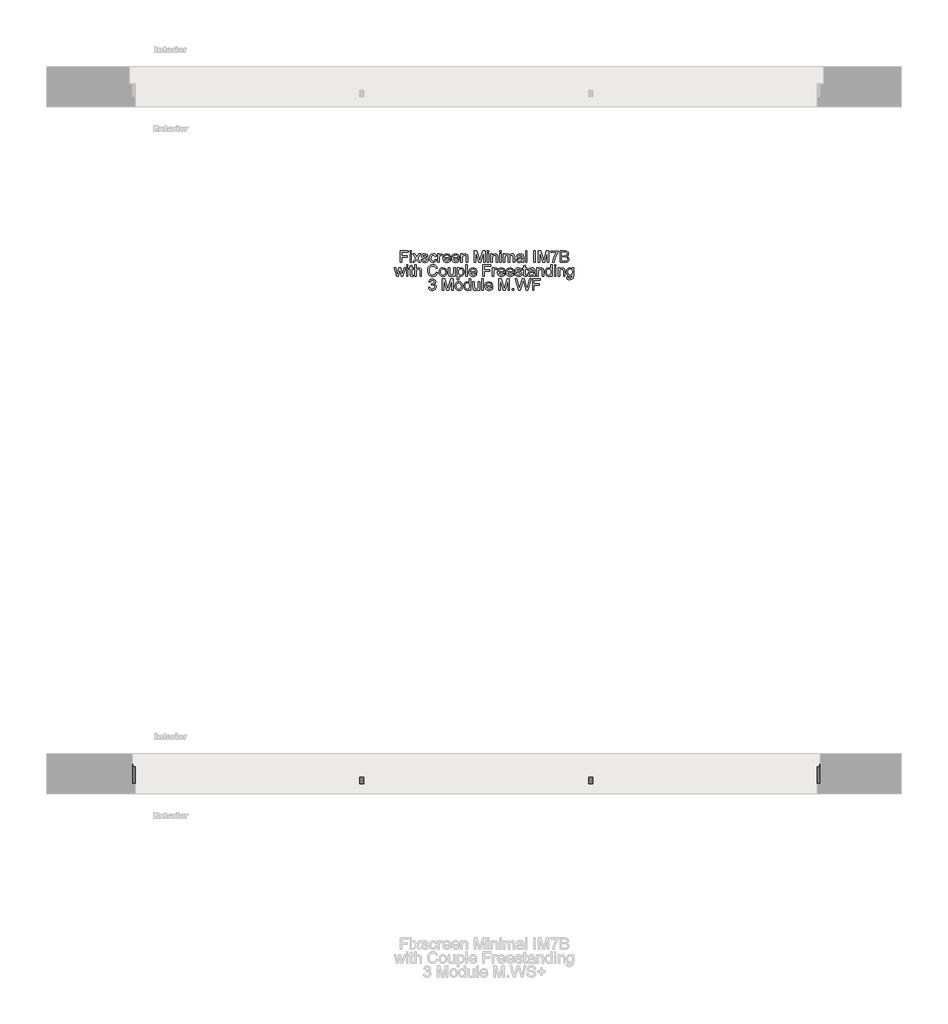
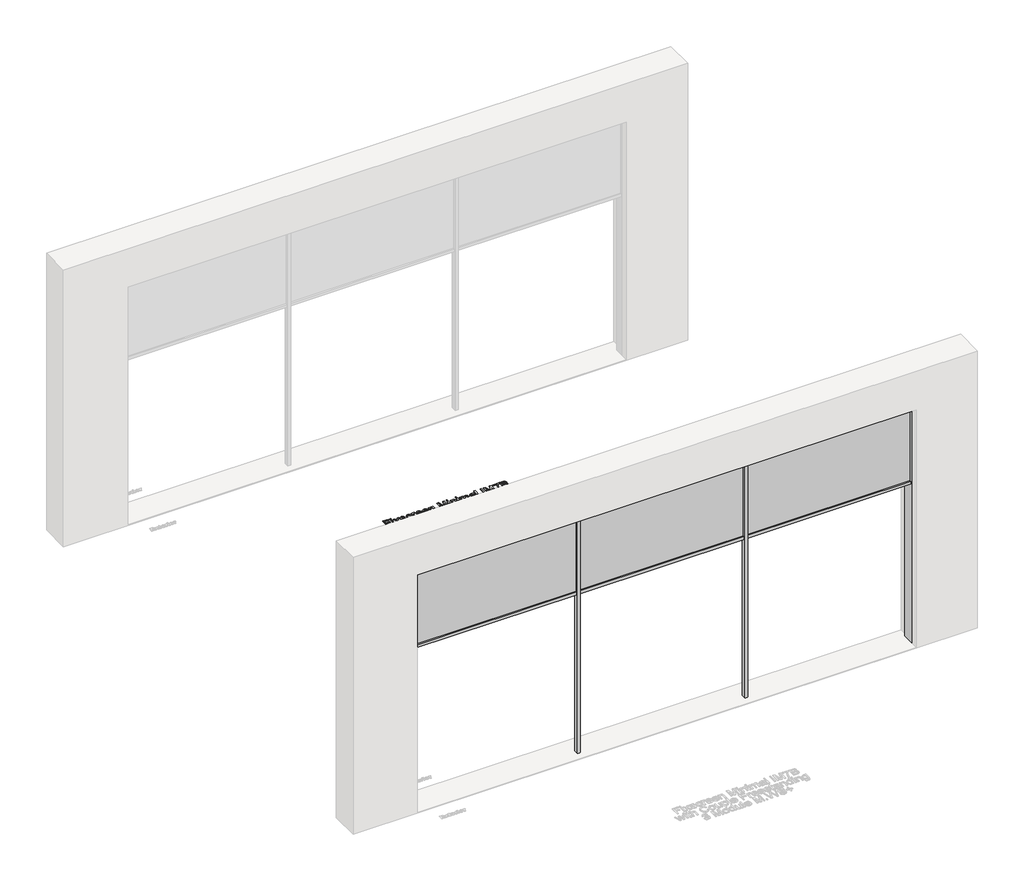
# One storey, part 13 of 14: 2 proxies.
"""IFC4 building model written with IfcOpenShell, lengths in millimetres."""

from ifc_helpers import new_model, si_unit, origin, origin_with_axes, place, context, project, spatial, polyline, outline, extrude, transform, mapped, element, save
from components import generic_models_a90540da

model = new_model("IFC4")

# Units and contexts
model_context = context("Model", 3, world=origin())
ifc_project = project(units=[si_unit("LENGTHUNIT", "METRE", prefix="MILLI")], contexts=[model_context])

# Site, building, storey
site = spatial("IfcSite", under=ifc_project)
building = spatial("IfcBuilding", under=site)
storey = spatial("IfcBuildingStorey", under=building, Name="Fixscreen Mini CF Overview Top", Elevation=0.0)

# Proxies
placement = place(None, origin())
generic_models_shape = generic_models_a90540da(model_context)
element("IfcBuildingElementProxy", 1, Name="Renson_Fixscreen_Minimal_IM7B_With_CF : Recessed - Front of the window - Medium-CF - Access downwards - Fabric away from the window", ObjectType="Renson_Fixscreen_Minimal_IM7B_With_CF : Recessed - Front of the window - Medium-CF - Access downwards - Fabric away from the window", at=placement, inside=storey, context=model_context, shape_type="MappedRepresentation", body=[
    mapped(generic_models_shape, transform((2057.1404643, 4332.1214664, -790.0), x_axis=(-1.0, 0.0, 0.0), y_axis=(0.0, -1.0, 0.0), z_axis=(0.0, 0.0, 1.0))),
])
element("IfcBuildingElementProxy", 2, Name="100mm Arial", ObjectType="100mm Arial", at=placement, inside=storey, context=model_context, shape_type="SweptSolid", body=[
    extrude(outline(polyline([(294.8320577, 8794.9284849), (294.8320577, 8895.3847951), (362.3261411, 8895.3847951), (362.3261411, 8882.8277563), (307.3890965, 8882.8277563), (307.3890965, 8853.0047892), (354.4779918, 8853.0047892), (354.4779918, 8840.4477504), (307.3890965, 8840.4477504), (307.3890965, 8794.9284849), (294.8320577, 8794.9284849)])), origin_with_axes(), (0.0, 0.0, 1.0), 5.0),
    extrude(outline(polyline([(378.0224395, 8794.9284849), (378.0224395, 8868.7010877), (390.5794783, 8868.7010877), (390.5794783, 8794.9284849), (378.0224395, 8794.9284849)])), origin_with_axes(), (0.0, 0.0, 1.0), 5.0),
    extrude(outline(polyline([(378.0224395, 8882.8277563), (378.0224395, 8895.3847951), (390.5794783, 8895.3847951), (390.5794783, 8882.8277563), (378.0224395, 8882.8277563)])), origin_with_axes(), (0.0, 0.0, 1.0), 5.0),
    extrude(outline(polyline([(401.5668872, 8794.9284849), (428.3977474, 8832.01099), (403.1365171, 8868.7010877), (418.2442043, 8868.7010877), (430.4333611, 8851.0427519), (436.1232693, 8842.7040933), (441.052888, 8849.522173), (454.934302, 8868.7010877), (470.0419893, 8868.7010877), (443.5054347, 8832.01099), (469.0609706, 8794.9284849), (453.9532833, 8794.9284849), (438.5758159, 8817.2221338), (435.7553873, 8821.2933612), (416.6745745, 8794.9284849), (401.5668872, 8794.9284849)])), origin_with_axes(), (0.0, 0.0, 1.0), 5.0),
    extrude(outline(polyline([(475.33949, 8816.9033027), (487.8965288, 8818.4729326), (493.7090643, 8809.1532554), (507.0263925, 8805.9158938), (519.8286859, 8808.8834753), (523.9980152, 8815.8487077), (519.8041605, 8821.489565), (506.8792397, 8825.070283), (487.9701052, 8831.2139124), (479.7172857, 8838.3876113), (476.9091198, 8848.5166289), (479.1654627, 8857.8730943), (485.3213548, 8865.0222677), (493.3043941, 8868.7378759), (504.107862, 8870.2707175), (519.3872275, 8867.8059081), (529.0993122, 8861.1349813), (533.4157943, 8849.8655295), (520.8587555, 8848.2958997), (516.1376033, 8855.2243439), (505.0888807, 8857.7136787), (493.0714022, 8855.3347085), (489.4661586, 8849.7919531), (490.9622121, 8846.1376586), (495.6465761, 8843.3662809), (506.4623068, 8840.6930051), (524.8931947, 8834.7823677), (533.4525825, 8828.0869154), (536.555054, 8817.1730829), (532.9130222, 8805.1556044), (522.4038599, 8796.4368011), (506.8547142, 8793.3588551), (494.1934422, 8794.8426458), (484.9534728, 8799.2940179), (478.785318, 8806.6639205), (475.33949, 8816.9033027)])), origin_with_axes(), (0.0, 0.0, 1.0), 5.0),
    extrude(outline(polyline([(597.770618, 8821.6121923), (610.3276568, 8820.0425624), (606.8266464, 8808.8742782), (600.2476901, 8800.4344521), (591.2100557, 8795.1277543), (580.3330114, 8793.3588551), (566.9758293, 8795.8267301), (556.5310463, 8803.2303553), (549.7896088, 8815.2447681), (547.5424629, 8831.5450062), (551.3806984, 8852.4039153), (563.0793458, 8865.8070826), (580.1613332, 8870.2707175), (590.771663, 8868.7378759), (599.2544087, 8864.1393509), (605.33979, 8856.7203974), (608.7580269, 8846.7262698), (596.2009881, 8845.15664), (590.3761899, 8854.5621563), (580.259435, 8857.7136787), (572.1445713, 8856.162443), (565.7035707, 8851.5087358), (561.5005189, 8843.501171), (560.0995017, 8831.8883627), (561.4698621, 8820.1192045), (565.5809434, 8812.0840486), (571.905448, 8807.4579325), (579.9160785, 8805.9158938), (591.749616, 8809.766392), (597.770618, 8821.6121923)])), origin_with_axes(), (0.0, 0.0, 1.0), 5.0),
    extrude(outline(polyline([(621.3150657, 8794.9284849), (621.3150657, 8868.7010877), (632.3024746, 8868.7010877), (632.3024746, 8857.7872551), (640.1015729, 8867.8426963), (647.9497221, 8870.2707175), (660.5558118, 8866.3956938), (656.3619571, 8855.1385048), (647.5327892, 8857.7136787), (640.4326667, 8855.2366066), (635.9077182, 8848.3694761), (633.8721044, 8833.7032472), (633.8721044, 8794.9284849), (621.3150657, 8794.9284849)])), origin_with_axes(), (0.0, 0.0, 1.0), 5.0),
    extrude(outline(polyline([(720.0545932, 8816.9033027), (732.3663773, 8815.3336729), (727.9303336, 8806.0569153), (720.8516708, 8799.1223396), (711.2898046, 8794.7997262), (699.4041505, 8793.3588551), (684.6704766, 8795.8451242), (673.3335798, 8803.3039317), (666.1046986, 8815.2508995), (663.6950715, 8831.2016496), (666.1292241, 8847.6888944), (673.4316817, 8860.0190726), (684.6152943, 8867.7078063), (698.692912, 8870.2707175), (712.332137, 8867.7139376), (723.2306411, 8860.043598), (730.3767488, 8847.7379453), (732.7587848, 8831.275226), (732.6852084, 8827.8907117), (676.2521103, 8827.8907117), (678.4256797, 8818.4913267), (683.4748601, 8811.5812765), (690.7619893, 8807.3322395), (699.6494052, 8805.9158938), (711.9611893, 8808.5401187), (720.0545932, 8816.9033027)]), holes=[polyline([(676.2521103, 8840.4477504), (720.201746, 8840.4477504), (715.1740254, 8851.8275668), (707.8531737, 8856.2421508), (698.6438611, 8857.7136787), (683.1805545, 8853.0170519), (678.3153151, 8847.5264132), (676.2521103, 8840.4477504)])]), origin_with_axes(), (0.0, 0.0, 1.0), 5.0),
    extrude(outline(polyline([(796.9664556, 8816.9033027), (809.2782397, 8815.3336729), (804.842196, 8806.0569153), (797.7635333, 8799.1223396), (788.2016671, 8794.7997262), (776.316013, 8793.3588551), (761.5823391, 8795.8451242), (750.2454423, 8803.3039317), (743.016561, 8815.2508995), (740.606934, 8831.2016496), (743.0410865, 8847.6888944), (750.3435441, 8860.0190726), (761.5271568, 8867.7078063), (775.6047745, 8870.2707175), (789.2439994, 8867.7139376), (800.1425035, 8860.043598), (807.2886113, 8847.7379453), (809.6706472, 8831.275226), (809.5970708, 8827.8907117), (753.1639728, 8827.8907117), (755.3375422, 8818.4913267), (760.3867226, 8811.5812765), (767.6738518, 8807.3322395), (776.5612676, 8805.9158938), (788.8730517, 8808.5401187), (796.9664556, 8816.9033027)]), holes=[polyline([(753.1639728, 8840.4477504), (797.1136084, 8840.4477504), (792.0858878, 8851.8275668), (784.7650361, 8856.2421508), (775.5557235, 8857.7136787), (760.092417, 8853.0170519), (755.2271776, 8847.5264132), (753.1639728, 8840.4477504)])]), origin_with_axes(), (0.0, 0.0, 1.0), 5.0),
    extrude(outline(polyline([(822.227686, 8794.9284849), (822.227686, 8868.7010877), (834.7847247, 8868.7010877), (834.7847247, 8858.4003918), (844.3864448, 8867.3031361), (857.4953066, 8870.2707175), (869.3533696, 8867.8794845), (877.4467735, 8861.6009652), (881.2114325, 8852.3671271), (881.8736201, 8840.2270212), (881.8736201, 8794.9284849), (869.3165814, 8794.9284849), (869.3165814, 8838.5347641), (867.8695788, 8849.6448003), (862.7560191, 8855.5186495), (854.1353177, 8857.7136787), (840.5114211, 8852.78406), (836.2163988, 8845.6410179), (834.7847247, 8834.0711292), (834.7847247, 8794.9284849), (822.227686, 8794.9284849)])), origin_with_axes(), (0.0, 0.0, 1.0), 5.0),
    extrude(outline(polyline([(939.9499244, 8794.9284849), (939.9499244, 8895.3847951), (961.5568603, 8895.3847951), (982.1092011, 8824.5797737), (986.2540049, 8809.7909175), (990.7421652, 8825.806047), (1010.9511495, 8895.3847951), (1032.5580854, 8895.3847951), (1032.5580854, 8794.9284849), (1020.0010466, 8794.9284849), (1020.0010466, 8882.8277563), (994.7643417, 8794.9284849), (977.7436681, 8794.9284849), (952.5069632, 8882.8277563), (952.5069632, 8794.9284849), (939.9499244, 8794.9284849)])), origin_with_axes(), (0.0, 0.0, 1.0), 5.0),
    extrude(outline(polyline([(1052.9632734, 8882.8277563), (1052.9632734, 8895.3847951), (1065.5203121, 8895.3847951), (1065.5203121, 8882.8277563), (1052.9632734, 8882.8277563)])), origin_with_axes(), (0.0, 0.0, 1.0), 5.0),
    extrude(outline(polyline([(1052.9632734, 8794.9284849), (1052.9632734, 8868.7010877), (1065.5203121, 8868.7010877), (1065.5203121, 8794.9284849), (1052.9632734, 8794.9284849)])), origin_with_axes(), (0.0, 0.0, 1.0), 5.0),
    extrude(outline(polyline([(1084.3558703, 8794.9284849), (1084.3558703, 8868.7010877), (1096.912909, 8868.7010877), (1096.912909, 8858.4003918), (1106.5146291, 8867.3031361), (1119.6234909, 8870.2707175), (1131.4815539, 8867.8794845), (1139.5749578, 8861.6009652), (1143.3396168, 8852.3671271), (1144.0018044, 8840.2270212), (1144.0018044, 8794.9284849), (1131.4447657, 8794.9284849), (1131.4447657, 8838.5347641), (1129.9977631, 8849.6448003), (1124.8842034, 8855.5186495), (1116.263502, 8857.7136787), (1102.6396054, 8852.78406), (1098.3445831, 8845.6410179), (1096.912909, 8834.0711292), (1096.912909, 8794.9284849), (1084.3558703, 8794.9284849)])), origin_with_axes(), (0.0, 0.0, 1.0), 5.0),
    extrude(outline(polyline([(1161.2677327, 8794.9284849), (1161.2677327, 8868.7010877), (1173.8247715, 8868.7010877), (1173.8247715, 8794.9284849), (1161.2677327, 8794.9284849)])), origin_with_axes(), (0.0, 0.0, 1.0), 5.0),
    extrude(outline(polyline([(1161.2677327, 8882.8277563), (1161.2677327, 8895.3847951), (1173.8247715, 8895.3847951), (1173.8247715, 8882.8277563), (1161.2677327, 8882.8277563)])), origin_with_axes(), (0.0, 0.0, 1.0), 5.0),
    extrude(outline(polyline([(1192.6603297, 8794.9284849), (1192.6603297, 8868.7010877), (1205.2173684, 8868.7010877), (1205.2173684, 8856.5609818), (1213.8503326, 8866.5060584), (1226.1375912, 8870.2707175), (1238.7191555, 8866.432482), (1245.635337, 8855.678065), (1255.4332608, 8866.6225544), (1267.8063585, 8870.2707175), (1277.2455974, 8868.7532043), (1284.2261583, 8864.2006646), (1288.5395746, 8856.4904711), (1289.9773801, 8845.4999965), (1289.9773801, 8794.9284849), (1277.4203413, 8794.9284849), (1277.4203413, 8840.1043939), (1276.2553817, 8850.5890308), (1272.0370015, 8855.7516414), (1264.8633026, 8857.7136787), (1252.5147303, 8852.6859581), (1248.8267133, 8846.14379), (1247.5973743, 8836.5727268), (1247.5973743, 8794.9284849), (1235.0403355, 8794.9284849), (1235.0403355, 8841.5023455), (1232.1340677, 8853.6669768), (1222.6059241, 8857.7136787), (1213.3107723, 8855.0158774), (1207.1303548, 8847.1186773), (1205.2173684, 8832.1336173), (1205.2173684, 8794.9284849), (1192.6603297, 8794.9284849)])), origin_with_axes(), (0.0, 0.0, 1.0), 5.0),
    extrude(outline(polyline([(1355.9018336, 8804.346264), (1343.7249396, 8795.8359272), (1330.2727213, 8793.3588551), (1319.7788874, 8794.8487771), (1312.0380371, 8799.3185434), (1307.2647682, 8806.1059662), (1305.6736786, 8814.548858), (1308.0771743, 8824.4816718), (1314.3924819, 8831.692159), (1323.1848615, 8835.8124373), (1334.0496431, 8837.7008982), (1355.8282572, 8842.0173803), (1355.9018336, 8844.8132834), (1352.4437429, 8854.0839097), (1338.5623289, 8857.7136787), (1325.8581374, 8855.2979203), (1319.8003472, 8846.7262698), (1307.2433084, 8848.2958997), (1312.6756992, 8860.5586328), (1323.6140572, 8867.7445945), (1340.1810097, 8870.2707175), (1355.3990616, 8868.0389001), (1363.9952375, 8862.434831), (1367.8457358, 8853.9122315), (1368.4588724, 8842.9248225), (1368.4588724, 8827.3021005), (1369.0965345, 8805.4866982), (1371.5981321, 8794.9284849), (1359.0410933, 8794.9284849), (1355.9018336, 8804.346264)]), holes=[polyline([(1355.9018336, 8829.4603415), (1335.6437984, 8825.6098433), (1324.8403305, 8823.5742296), (1319.9475, 8820.2632916), (1318.2307173, 8815.4317748), (1321.970851, 8808.6382206), (1332.9459971, 8805.9158938), (1345.6501887, 8808.9202635), (1353.8416945, 8816.1920642), (1355.8282572, 8825.9041489), (1355.9018336, 8829.4603415)])]), origin_with_axes(), (0.0, 0.0, 1.0), 5.0),
    extrude(outline(polyline([(1385.7248007, 8794.9284849), (1385.7248007, 8895.3847951), (1398.2818395, 8895.3847951), (1398.2818395, 8794.9284849), (1385.7248007, 8794.9284849)])), origin_with_axes(), (0.0, 0.0, 1.0), 5.0),
    extrude(outline(polyline([(1459.4974035, 8794.9284849), (1459.4974035, 8895.3847951), (1472.0544423, 8895.3847951), (1472.0544423, 8794.9284849), (1459.4974035, 8794.9284849)])), origin_with_axes(), (0.0, 0.0, 1.0), 5.0),
    extrude(outline(polyline([(1497.1685198, 8794.9284849), (1497.1685198, 8895.3847951), (1518.7754556, 8895.3847951), (1539.3277964, 8824.5797737), (1543.4726003, 8809.7909175), (1547.9607606, 8825.806047), (1568.1697449, 8895.3847951), (1589.7766807, 8895.3847951), (1589.7766807, 8794.9284849), (1577.2196419, 8794.9284849), (1577.2196419, 8882.8277563), (1551.9829371, 8794.9284849), (1534.9622634, 8794.9284849), (1509.7255586, 8882.8277563), (1509.7255586, 8794.9284849), (1497.1685198, 8794.9284849)])), origin_with_axes(), (0.0, 0.0, 1.0), 5.0),
    extrude(outline(polyline([(1607.042609, 8881.2581264), (1607.042609, 8893.8151652), (1672.9670626, 8893.8151652), (1672.9670626, 8883.6616221), (1654.2663945, 8856.646821), (1639.9557849, 8822.2253289), (1635.2959463, 8794.9284849), (1622.7389075, 8794.9284849), (1627.7298399, 8823.2553985), (1641.4273128, 8855.2733948), (1660.4100238, 8881.2581264), (1607.042609, 8881.2581264)])), origin_with_axes(), (0.0, 0.0, 1.0), 5.0),
    extrude(outline(polyline([(1688.663361, 8794.9284849), (1688.663361, 8895.3847951), (1726.9966649, 8895.3847951), (1745.7709094, 8892.4294764), (1756.8564202, 8883.3427911), (1760.8663339, 8870.4914467), (1757.4940823, 8858.7560111), (1747.303751, 8849.8655295), (1759.6768488, 8840.4968014), (1764.0055936, 8824.8740793), (1761.0502749, 8811.3728101), (1753.7294232, 8801.7588273), (1742.803328, 8796.6575303), (1726.7023593, 8794.9284849), (1688.663361, 8794.9284849)]), holes=[polyline([(1701.2203998, 8854.5744191), (1724.1517108, 8854.5744191), (1737.5426154, 8855.6535396), (1745.5992311, 8860.3011154), (1748.3092952, 8868.4803585), (1745.7831721, 8876.6718642), (1738.5481596, 8881.5156438), (1722.4104027, 8882.8277563), (1701.2203998, 8882.8277563), (1701.2203998, 8854.5744191)]), polyline([(1701.2203998, 8807.4855237), (1726.9721394, 8807.4855237), (1736.2918167, 8807.976033), (1744.1767541, 8810.7106225), (1749.4006784, 8816.2901661), (1751.4485549, 8824.751452), (1749.0450592, 8834.5125876), (1741.2582236, 8840.3373858), (1725.7458661, 8842.0173803), (1701.2203998, 8842.0173803), (1701.2203998, 8807.4855237)])]), origin_with_axes(), (0.0, 0.0, 1.0), 5.0),
    extrude(outline(polyline([(260.7661849, 8672.9536671), (238.3253832, 8746.7262698), (251.3729313, 8746.7262698), (264.1016484, 8703.6840764), (267.9030956, 8688.306609), (271.0178299, 8703.1199907), (281.1468475, 8746.7262698), (296.1073819, 8746.7262698), (306.1873486, 8703.242618), (308.9587263, 8689.8271879), (312.9318519, 8703.978382), (325.6850944, 8746.7262698), (338.7816934, 8746.7262698), (316.1692134, 8672.9536671), (300.9879497, 8672.9536671), (291.3494415, 8716.2165897), (288.5535383, 8729.7055962), (276.1191269, 8672.9536671), (260.7661849, 8672.9536671)])), origin_with_axes(), (0.0, 0.0, 1.0), 5.0),
    extrude(outline(polyline([(347.4146575, 8672.9536671), (347.4146575, 8746.7262698), (359.9716963, 8746.7262698), (359.9716963, 8672.9536671), (347.4146575, 8672.9536671)])), origin_with_axes(), (0.0, 0.0, 1.0), 5.0),
    extrude(outline(polyline([(347.4146575, 8760.8529384), (347.4146575, 8773.4099772), (359.9716963, 8773.4099772), (359.9716963, 8760.8529384), (347.4146575, 8760.8529384)])), origin_with_axes(), (0.0, 0.0, 1.0), 5.0),
    extrude(outline(polyline([(405.4909618, 8683.4260412), (407.0605917, 8672.5857851), (397.6673381, 8671.3840372), (387.145913, 8673.4687018), (381.8974632, 8678.9378808), (380.3768843, 8693.1871768), (380.3768843, 8734.1692311), (370.9591052, 8734.1692311), (370.9591052, 8746.7262698), (380.3768843, 8746.7262698), (380.3768843, 8764.6543857), (392.9339231, 8772.0365511), (392.9339231, 8746.7262698), (405.4909618, 8746.7262698), (405.4909618, 8734.1692311), (392.9339231, 8734.1692311), (392.9339231, 8693.5550588), (393.5961107, 8687.0803357), (395.742089, 8684.7872046), (400.0217828, 8683.941076), (405.4909618, 8683.4260412)])), origin_with_axes(), (0.0, 0.0, 1.0), 5.0),
    extrude(outline(polyline([(418.0480006, 8672.9536671), (418.0480006, 8773.4099772), (430.6050394, 8773.4099772), (430.6050394, 8736.4746249), (440.3968318, 8745.340581), (452.4572299, 8748.2958997), (466.559373, 8745.0708008), (475.1187608, 8736.1557938), (477.6939348, 8719.650155), (477.6939348, 8672.9536671), (465.136896, 8672.9536671), (465.136896, 8718.3503053), (461.139245, 8731.5940571), (449.8084795, 8735.7388609), (439.5200464, 8732.9429577), (432.6529158, 8725.3645886), (430.6050394, 8712.1453623), (430.6050394, 8672.9536671), (418.0480006, 8672.9536671)])), origin_with_axes(), (0.0, 0.0, 1.0), 5.0),
    extrude(outline(polyline([(606.4035821, 8708.6627461), (618.9606209, 8705.4253845), (613.1664795, 8690.7928781), (604.0736628, 8680.1028405), (592.1297607, 8673.563738), (577.7823629, 8671.3840372), (563.2173016, 8673.0333748), (551.6504785, 8677.9813877), (542.7845224, 8686.0563975), (536.3220621, 8697.0867259), (531.0613495, 8723.9421116), (532.5482059, 8738.5899464), (537.0087751, 8751.2389556), (544.2100652, 8761.4875349), (553.9190842, 8768.9340796), (565.4337906, 8773.4682252), (578.052143, 8774.9796071), (591.8201267, 8773.0237011), (603.2030088, 8767.1559833), (611.84517, 8757.7382042), (617.3909911, 8745.1321145), (604.8339523, 8742.1400076), (594.5332564, 8757.5787887), (577.5616337, 8762.4225683), (557.9167352, 8757.0514912), (546.8189617, 8742.6305169), (543.6183883, 8723.9666371), (547.4075728, 8702.3351757), (559.2043222, 8688.5150755), (576.5315641, 8683.941076), (587.0131353, 8685.4984431), (595.747267, 8690.1705444), (602.3415518, 8697.9083291), (606.4035821, 8708.6627461)])), origin_with_axes(), (0.0, 0.0, 1.0), 5.0),
    extrude(outline(polyline([(631.5176597, 8709.8399684), (634.2338551, 8727.6270629), (642.3824413, 8740.1289194), (652.4501452, 8746.2541546), (664.5044119, 8748.2958997), (677.6960471, 8745.8096305), (688.2328006, 8738.3508231), (695.1397851, 8726.5080885), (697.4421132, 8710.870038), (693.3708858, 8688.5273382), (681.5128228, 8675.8844603), (664.5044119, 8671.3840372), (651.1533612, 8673.8611093), (640.6288704, 8681.2923256), (633.7954624, 8693.3833805), (631.5176597, 8709.8399684)]), holes=[polyline([(644.0746984, 8709.8644939), (645.5278323, 8698.5000059), (649.887234, 8690.4035364), (656.4477962, 8685.5566911), (664.5044119, 8683.941076), (672.5242394, 8685.5658881), (679.0725389, 8690.4403246), (683.4319406, 8698.6440931), (684.8850744, 8710.2569014), (683.4227435, 8721.2902955), (679.0357507, 8729.2764005), (672.4782542, 8734.1232458), (664.5044119, 8735.7388609), (656.4477962, 8734.1293772), (649.887234, 8729.300926), (645.5278323, 8721.2228505), (644.0746984, 8709.8644939)])]), origin_with_axes(), (0.0, 0.0, 1.0), 5.0),
    extrude(outline(polyline([(758.6576772, 8672.9536671), (758.6576772, 8685.6333332), (748.8229652, 8674.9463612), (735.9961463, 8671.3840372), (724.1871343, 8673.8856348), (716.0446794, 8680.1641542), (712.3045458, 8689.410255), (711.5687818, 8701.084377), (711.5687818, 8746.7262698), (724.1258206, 8746.7262698), (724.1258206, 8706.9950143), (724.8861101, 8694.1927209), (729.852517, 8686.6756655), (739.2089824, 8683.941076), (749.6936193, 8686.7369791), (756.6220635, 8694.3521364), (758.6576772, 8708.343915), (758.6576772, 8746.7262698), (771.214716, 8746.7262698), (771.214716, 8672.9536671), (758.6576772, 8672.9536671)])), origin_with_axes(), (0.0, 0.0, 1.0), 5.0),
    extrude(outline(polyline([(788.4806443, 8644.7003298), (788.4806443, 8746.7262698), (801.0376831, 8746.7262698), (801.0376831, 8734.4144857), (809.7196981, 8744.8255462), (821.4428711, 8748.2958997), (837.3598987, 8743.4398573), (847.7586964, 8729.7546471), (851.2658381, 8710.4040542), (847.3049753, 8690.0601798), (835.8025316, 8676.2032913), (819.9222921, 8671.3840372), (808.9961969, 8674.609136), (801.0376831, 8682.7638536), (801.0376831, 8644.7003298), (788.4806443, 8644.7003298)]), holes=[polyline([(801.0376831, 8709.2513572), (802.3957808, 8697.9941682), (806.4700739, 8690.1214935), (812.4818788, 8685.4861804), (819.652512, 8683.941076), (826.9396412, 8685.5413627), (833.1047303, 8690.3422227), (837.3077821, 8698.5030716), (838.7087994, 8710.183325), (837.3415046, 8721.3792004), (833.2396204, 8729.3622397), (827.2370125, 8734.1447056), (820.1675468, 8735.7388609), (813.07049, 8734.043538), (806.8379558, 8728.9575695), (802.4877513, 8720.6403707), (801.0376831, 8709.2513572)])]), origin_with_axes(), (0.0, 0.0, 1.0), 5.0),
    extrude(outline(polyline([(865.3925067, 8672.9536671), (865.3925067, 8773.4099772), (877.9495455, 8773.4099772), (877.9495455, 8672.9536671), (865.3925067, 8672.9536671)])), origin_with_axes(), (0.0, 0.0, 1.0), 5.0),
    extrude(outline(polyline([(948.4357358, 8694.9284849), (960.7475199, 8693.3588551), (956.3114762, 8684.0820974), (949.2328134, 8677.1475218), (939.6709473, 8672.8249084), (927.7852931, 8671.3840372), (913.0516192, 8673.8703064), (901.7147224, 8681.3291138), (894.4858412, 8693.2760816), (892.0762141, 8709.2268318), (894.5103667, 8725.7140765), (901.8128243, 8738.0442547), (912.9964369, 8745.7329884), (927.0740546, 8748.2958997), (940.7132796, 8745.7391198), (951.6117837, 8738.0687802), (958.7578914, 8725.7631275), (961.1399274, 8709.3004082), (961.066351, 8705.9158938), (904.6332529, 8705.9158938), (906.8068224, 8696.5165088), (911.8560027, 8689.6064587), (919.1431319, 8685.3574217), (928.0305478, 8683.941076), (940.3423319, 8686.5653009), (948.4357358, 8694.9284849)]), holes=[polyline([(904.6332529, 8718.4729326), (948.5828886, 8718.4729326), (943.555168, 8729.852749), (936.2343163, 8734.2673329), (927.0250037, 8735.7388609), (911.5616971, 8731.0422341), (906.6964578, 8725.5515953), (904.6332529, 8718.4729326)])]), origin_with_axes(), (0.0, 0.0, 1.0), 5.0),
    extrude(outline(polyline([(1014.5073421, 8672.9536671), (1014.5073421, 8773.4099772), (1082.0014255, 8773.4099772), (1082.0014255, 8760.8529384), (1027.0643809, 8760.8529384), (1027.0643809, 8731.0299714), (1074.1532763, 8731.0299714), (1074.1532763, 8718.4729326), (1027.0643809, 8718.4729326), (1027.0643809, 8672.9536671), (1014.5073421, 8672.9536671)])), origin_with_axes(), (0.0, 0.0, 1.0), 5.0),
    extrude(outline(polyline([(1097.697724, 8672.9536671), (1097.697724, 8746.7262698), (1108.6851329, 8746.7262698), (1108.6851329, 8735.8124373), (1116.4842312, 8745.8678785), (1124.3323804, 8748.2958997), (1136.9384701, 8744.420876), (1132.7446154, 8733.1636869), (1123.9154475, 8735.7388609), (1116.815325, 8733.2617888), (1112.2903764, 8726.3946582), (1110.2547627, 8711.7284293), (1110.2547627, 8672.9536671), (1097.697724, 8672.9536671)])), origin_with_axes(), (0.0, 0.0, 1.0), 5.0),
    extrude(outline(polyline([(1196.4372515, 8694.9284849), (1208.7490356, 8693.3588551), (1204.3129919, 8684.0820974), (1197.2343291, 8677.1475218), (1187.6724629, 8672.8249084), (1175.7868088, 8671.3840372), (1161.0531349, 8673.8703064), (1149.7162381, 8681.3291138), (1142.4873569, 8693.2760816), (1140.0777298, 8709.2268318), (1142.5118823, 8725.7140765), (1149.8143399, 8738.0442547), (1160.9979526, 8745.7329884), (1175.0755703, 8748.2958997), (1188.7147953, 8745.7391198), (1199.6132994, 8738.0687802), (1206.7594071, 8725.7631275), (1209.141443, 8709.3004082), (1209.0678666, 8705.9158938), (1152.6347686, 8705.9158938), (1154.808338, 8696.5165088), (1159.8575184, 8689.6064587), (1167.1446476, 8685.3574217), (1176.0320635, 8683.941076), (1188.3438476, 8686.5653009), (1196.4372515, 8694.9284849)]), holes=[polyline([(1152.6347686, 8718.4729326), (1196.5844043, 8718.4729326), (1191.5566837, 8729.852749), (1184.235832, 8734.2673329), (1175.0265194, 8735.7388609), (1159.5632128, 8731.0422341), (1154.6979734, 8725.5515953), (1152.6347686, 8718.4729326)])]), origin_with_axes(), (0.0, 0.0, 1.0), 5.0),
    extrude(outline(polyline([(1273.3491139, 8694.9284849), (1285.660898, 8693.3588551), (1281.2248543, 8684.0820974), (1274.1461916, 8677.1475218), (1264.5843254, 8672.8249084), (1252.6986713, 8671.3840372), (1237.9649974, 8673.8703064), (1226.6281005, 8681.3291138), (1219.3992193, 8693.2760816), (1216.9895923, 8709.2268318), (1219.4237448, 8725.7140765), (1226.7262024, 8738.0442547), (1237.9098151, 8745.7329884), (1251.9874327, 8748.2958997), (1265.6266577, 8745.7391198), (1276.5251618, 8738.0687802), (1283.6712696, 8725.7631275), (1286.0533055, 8709.3004082), (1285.9797291, 8705.9158938), (1229.546631, 8705.9158938), (1231.7202005, 8696.5165088), (1236.7693809, 8689.6064587), (1244.0565101, 8685.3574217), (1252.9439259, 8683.941076), (1265.25571, 8686.5653009), (1273.3491139, 8694.9284849)]), holes=[polyline([(1229.546631, 8718.4729326), (1273.4962667, 8718.4729326), (1268.4685461, 8729.852749), (1261.1476944, 8734.2673329), (1251.9383818, 8735.7388609), (1236.4750753, 8731.0422341), (1231.6098359, 8725.5515953), (1229.546631, 8718.4729326)])]), origin_with_axes(), (0.0, 0.0, 1.0), 5.0),
    extrude(outline(polyline([(1293.9014547, 8694.9284849), (1306.4584935, 8696.4981147), (1312.271029, 8687.1784375), (1325.5883572, 8683.941076), (1338.3906507, 8686.9086574), (1342.55998, 8693.8738898), (1338.3661252, 8699.5147471), (1325.4412044, 8703.0954652), (1306.5320699, 8709.2390945), (1298.2792505, 8716.4127934), (1295.4710846, 8726.541811), (1297.7274275, 8735.8982764), (1303.8833195, 8743.0474499), (1311.8663588, 8746.763058), (1322.6698268, 8748.2958997), (1337.9491923, 8745.8310903), (1347.661277, 8739.1601635), (1351.977759, 8727.8907117), (1339.4207203, 8726.3210818), (1334.699568, 8733.2495261), (1323.6508454, 8735.7388609), (1311.6333669, 8733.3598907), (1308.0281233, 8727.8171353), (1309.5241768, 8724.1628408), (1314.2085409, 8721.3914631), (1325.0242715, 8718.7181873), (1343.4551595, 8712.8075499), (1352.0145472, 8706.1120976), (1355.1170187, 8695.198265), (1351.474987, 8683.1807865), (1340.9658246, 8674.4619832), (1325.416679, 8671.3840372), (1312.755407, 8672.8678279), (1303.5154375, 8677.3192001), (1297.3472827, 8684.6891027), (1293.9014547, 8694.9284849)])), origin_with_axes(), (0.0, 0.0, 1.0), 5.0),
    extrude(outline(polyline([(1395.9273947, 8683.4260412), (1397.4970246, 8672.5857851), (1388.103771, 8671.3840372), (1377.5823459, 8673.4687018), (1372.3338961, 8678.9378808), (1370.8133172, 8693.1871768), (1370.8133172, 8734.1692311), (1361.3955381, 8734.1692311), (1361.3955381, 8746.7262698), (1370.8133172, 8746.7262698), (1370.8133172, 8764.6543857), (1383.370356, 8772.0365511), (1383.370356, 8746.7262698), (1395.9273947, 8746.7262698), (1395.9273947, 8734.1692311), (1383.370356, 8734.1692311), (1383.370356, 8693.5550588), (1384.0325435, 8687.0803357), (1386.1785219, 8684.7872046), (1390.4582157, 8683.941076), (1395.9273947, 8683.4260412)])), origin_with_axes(), (0.0, 0.0, 1.0), 5.0),
    extrude(outline(polyline([(1455.5733289, 8682.3714461), (1443.3964348, 8673.8611093), (1429.9442165, 8671.3840372), (1419.4503826, 8672.8739593), (1411.7095323, 8677.3437255), (1406.9362634, 8684.1311483), (1405.3451738, 8692.5740401), (1407.7486695, 8702.506854), (1414.0639771, 8709.7173411), (1422.8563568, 8713.8376195), (1433.7211384, 8715.7260804), (1455.4997525, 8720.0425624), (1455.5733289, 8722.8384656), (1452.1152381, 8732.1090919), (1438.2338242, 8735.7388609), (1425.5296326, 8733.3231025), (1419.4718424, 8724.751452), (1406.9148036, 8726.3210818), (1412.3471944, 8738.583815), (1423.2855524, 8745.7697766), (1439.8525049, 8748.2958997), (1455.0705568, 8746.0640822), (1463.6667328, 8740.4600132), (1467.517231, 8731.9374136), (1468.1303676, 8720.9500047), (1468.1303676, 8705.3272826), (1468.7680298, 8683.5118803), (1471.2696273, 8672.9536671), (1458.7125886, 8672.9536671), (1455.5733289, 8682.3714461)]), holes=[polyline([(1455.5733289, 8707.4855237), (1435.3152937, 8703.6350255), (1424.5118257, 8701.5994117), (1419.6189952, 8698.2884738), (1417.9022126, 8693.4569569), (1421.6423462, 8686.6634027), (1432.6174924, 8683.941076), (1445.3216839, 8686.9454456), (1453.5131897, 8694.2172464), (1455.4997525, 8703.9293311), (1455.5733289, 8707.4855237)])]), origin_with_axes(), (0.0, 0.0, 1.0), 5.0),
    extrude(outline(polyline([(1485.3962959, 8672.9536671), (1485.3962959, 8746.7262698), (1497.9533347, 8746.7262698), (1497.9533347, 8736.425574), (1507.5550548, 8745.3283182), (1520.6639166, 8748.2958997), (1532.5219795, 8745.9046667), (1540.6153834, 8739.6261473), (1544.3800425, 8730.3923092), (1545.0422301, 8718.2522034), (1545.0422301, 8672.9536671), (1532.4851913, 8672.9536671), (1532.4851913, 8716.5599462), (1531.0381888, 8727.6699825), (1525.9246291, 8733.5438317), (1517.3039277, 8735.7388609), (1503.6800311, 8730.8092422), (1499.3850088, 8723.6662001), (1497.9533347, 8712.0963113), (1497.9533347, 8672.9536671), (1485.3962959, 8672.9536671)])), origin_with_axes(), (0.0, 0.0, 1.0), 5.0),
    extrude(outline(polyline([(1607.8274239, 8672.9536671), (1607.8274239, 8684.7994673), (1599.5194222, 8674.7378947), (1588.0353726, 8671.3840372), (1572.4862269, 8676.2400795), (1561.498818, 8689.7903997), (1557.5992689, 8709.766392), (1561.1922497, 8729.7546471), (1571.9589294, 8743.5134337), (1587.9863217, 8748.2958997), (1599.5623418, 8744.8745971), (1607.8274239, 8735.9841156), (1607.8274239, 8773.4099772), (1620.3844627, 8773.4099772), (1620.3844627, 8672.9536671), (1607.8274239, 8672.9536671)]), holes=[polyline([(1570.1563076, 8709.815443), (1571.5726533, 8698.4570864), (1575.8216904, 8690.3790109), (1581.9959765, 8685.5505597), (1589.1880695, 8683.941076), (1596.3770968, 8685.4769833), (1602.3950331, 8690.0847053), (1606.4693262, 8697.8500811), (1607.8274239, 8708.8589498), (1606.4448008, 8720.8948224), (1602.2969313, 8729.2396123), (1596.1257108, 8734.1140488), (1588.6730347, 8735.7388609), (1581.4073653, 8734.1784281), (1575.4538084, 8729.4971297), (1571.4806828, 8721.4558424), (1570.1563076, 8709.815443)])]), origin_with_axes(), (0.0, 0.0, 1.0), 5.0),
    extrude(outline(polyline([(1639.2200209, 8672.9536671), (1639.2200209, 8746.7262698), (1651.7770596, 8746.7262698), (1651.7770596, 8672.9536671), (1639.2200209, 8672.9536671)])), origin_with_axes(), (0.0, 0.0, 1.0), 5.0),
    extrude(outline(polyline([(1639.2200209, 8760.8529384), (1639.2200209, 8773.4099772), (1651.7770596, 8773.4099772), (1651.7770596, 8760.8529384), (1639.2200209, 8760.8529384)])), origin_with_axes(), (0.0, 0.0, 1.0), 5.0),
    extrude(outline(polyline([(1670.6126178, 8672.9536671), (1670.6126178, 8746.7262698), (1683.1696566, 8746.7262698), (1683.1696566, 8736.425574), (1692.7713766, 8745.3283182), (1705.8802384, 8748.2958997), (1717.7383014, 8745.9046667), (1725.8317053, 8739.6261473), (1729.5963643, 8730.3923092), (1730.2585519, 8718.2522034), (1730.2585519, 8672.9536671), (1717.7015132, 8672.9536671), (1717.7015132, 8716.5599462), (1716.2545107, 8727.6699825), (1711.1409509, 8733.5438317), (1702.5202495, 8735.7388609), (1688.8963529, 8730.8092422), (1684.6013307, 8723.6662001), (1683.1696566, 8712.0963113), (1683.1696566, 8672.9536671), (1670.6126178, 8672.9536671)])), origin_with_axes(), (0.0, 0.0, 1.0), 5.0),
    extrude(outline(polyline([(1744.3852206, 8666.6751477), (1756.9422593, 8665.1055178), (1761.0134867, 8658.4836419), (1773.2026435, 8655.6877387), (1786.0539879, 8658.8515239), (1792.1853545, 8667.7297427), (1793.0437458, 8682.3714461), (1784.2023152, 8675.3081118), (1773.4233727, 8672.9536671), (1760.4769922, 8675.6943879), (1750.8231555, 8683.9165505), (1744.8174819, 8695.9708172), (1742.8155907, 8710.2078504), (1746.4085715, 8729.668808), (1756.8073693, 8743.4398573), (1772.810236, 8748.2958997), (1784.0122428, 8745.5490474), (1793.0437458, 8737.3084907), (1793.0437458, 8746.7262698), (1805.6007846, 8746.7262698), (1805.6007846, 8683.0336337), (1802.1672193, 8658.6430574), (1791.2901749, 8647.3000293), (1772.9573888, 8643.1307), (1761.2740698, 8644.5991623), (1752.0739543, 8649.0045492), (1746.1725139, 8656.3591234), (1744.3852206, 8666.6751477)]), holes=[polyline([(1755.3726295, 8711.0662418), (1756.7123331, 8699.5484696), (1760.7314439, 8691.6298097), (1766.7739056, 8687.0404818), (1774.1836622, 8685.5107058), (1781.5382364, 8687.0312847), (1787.611355, 8691.5930215), (1791.6856481, 8699.4105139), (1793.0437458, 8710.6983598), (1791.6457942, 8721.5846011), (1787.4519395, 8729.4235533), (1781.289916, 8734.160034), (1773.9874584, 8735.7388609), (1766.8168252, 8734.1845595), (1760.8050203, 8729.5216552), (1756.7307272, 8721.799199), (1755.3726295, 8711.0662418)])]), origin_with_axes(), (0.0, 0.0, 1.0), 5.0),
    extrude(outline(polyline([(539.6943137, 8577.6625566), (552.2513525, 8579.2321864), (559.1797967, 8566.0129601), (572.1415057, 8561.9662581), (580.7499443, 8563.3580783), (587.3963457, 8567.533539), (593.0617284, 8581.3168511), (587.4453967, 8594.3030855), (573.1715752, 8599.4411707), (564.3669328, 8598.0677446), (565.7648844, 8610.6247834), (567.7759726, 8610.4776306), (582.0252686, 8614.0828741), (586.7709463, 8618.6568736), (588.3528389, 8625.1683849), (583.7665767, 8634.9908342), (571.9453019, 8638.8781206), (559.9768743, 8634.954046), (553.8209823, 8623.1818221), (541.2639435, 8624.751452), (544.9611576, 8636.0270351), (551.5401139, 8644.4454015), (560.5409601, 8649.6877199), (571.5038435, 8651.4351594), (586.648319, 8647.9893313), (597.2433205, 8638.5715523), (600.9098777, 8625.9041489), (597.4272615, 8614.3281288), (587.1265656, 8606.0139957), (600.8117758, 8597.4300825), (605.6187672, 8581.0961219), (603.2152715, 8568.8579142), (596.0047844, 8558.6307947), (585.1216087, 8551.7146132), (571.7000473, 8549.4092194), (559.5599414, 8551.377388), (549.6761785, 8557.2818941), (542.8029165, 8566.313397), (539.6943137, 8577.6625566)])), origin_with_axes(), (0.0, 0.0, 1.0), 5.0),
    extrude(outline(polyline([(660.5558118, 8550.9788492), (660.5558118, 8651.4351594), (682.1627477, 8651.4351594), (702.7150885, 8580.630138), (706.8598923, 8565.8412818), (711.3480526, 8581.8564113), (731.5570369, 8651.4351594), (753.1639728, 8651.4351594), (753.1639728, 8550.9788492), (740.606934, 8550.9788492), (740.606934, 8638.8781206), (715.3702291, 8550.9788492), (698.3495555, 8550.9788492), (673.1128506, 8638.8781206), (673.1128506, 8550.9788492), (660.5558118, 8550.9788492)])), origin_with_axes(), (0.0, 0.0, 1.0), 5.0),
    extrude(outline(polyline([(770.4299011, 8587.8651506), (773.1460965, 8605.6522451), (781.2946826, 8618.1541015), (791.3623866, 8624.2793368), (803.4166533, 8626.3210818), (816.6082885, 8623.8348127), (827.145042, 8616.3760052), (834.0520264, 8604.5332707), (836.3543546, 8588.8952202), (832.2831272, 8566.5525203), (820.4250642, 8553.9096424), (803.4166533, 8549.4092194), (790.0656025, 8551.8862915), (779.5411118, 8559.3175078), (772.7077037, 8571.4085627), (770.4299011, 8587.8651506)]), holes=[polyline([(782.9869398, 8587.8896761), (784.4400737, 8576.5251881), (788.7994753, 8568.4287185), (795.3600376, 8563.5818732), (803.4166533, 8561.9662581), (811.4364808, 8563.5910703), (817.9847803, 8568.4655067), (822.3441819, 8576.6692752), (823.7973158, 8588.2820835), (822.3349849, 8599.3154777), (817.9479921, 8607.3015827), (811.3904955, 8612.148428), (803.4166533, 8613.7640431), (795.3600376, 8612.1545593), (788.7994753, 8607.3261081), (784.4400737, 8599.2480327), (782.9869398, 8587.8896761)])]), origin_with_axes(), (0.0, 0.0, 1.0), 5.0),
    extrude(outline(polyline([(896.0002887, 8550.9788492), (896.0002887, 8562.8246495), (887.692287, 8552.7630769), (876.2082374, 8549.4092194), (860.6590917, 8554.2652617), (849.6716828, 8567.8155819), (845.7721337, 8587.7915742), (849.3651145, 8607.7798293), (860.1317942, 8621.5386159), (876.1591865, 8626.3210818), (887.7352066, 8622.8997793), (896.0002887, 8614.0092977), (896.0002887, 8651.4351594), (908.5573275, 8651.4351594), (908.5573275, 8550.9788492), (896.0002887, 8550.9788492)]), holes=[polyline([(858.3291724, 8587.8406251), (859.7455181, 8576.4822685), (863.9945552, 8568.404193), (870.1688413, 8563.5757419), (877.3609343, 8561.9662581), (884.5499616, 8563.5021655), (890.5678979, 8568.1098875), (894.642191, 8575.8752632), (896.0002887, 8586.8841319), (894.6176656, 8598.9200045), (890.4697961, 8607.2647945), (884.2985756, 8612.1392309), (876.8458995, 8613.7640431), (869.5802301, 8612.2036103), (863.6266732, 8607.5223119), (859.6535476, 8599.4810246), (858.3291724, 8587.8406251)])]), origin_with_axes(), (0.0, 0.0, 1.0), 5.0),
    extrude(outline(polyline([(974.481781, 8550.9788492), (974.481781, 8563.6585153), (964.647069, 8552.9715434), (951.8202501, 8549.4092194), (940.0112381, 8551.9108169), (931.8687833, 8558.1893363), (928.1286497, 8567.4354371), (927.3928857, 8579.1095591), (927.3928857, 8624.751452), (939.9499244, 8624.751452), (939.9499244, 8585.0201965), (940.7102139, 8572.2179031), (945.6766208, 8564.7008476), (955.0330862, 8561.9662581), (965.5177231, 8564.7621613), (972.4461673, 8572.3773186), (974.481781, 8586.3690971), (974.481781, 8624.751452), (987.0388198, 8624.751452), (987.0388198, 8550.9788492), (974.481781, 8550.9788492)])), origin_with_axes(), (0.0, 0.0, 1.0), 5.0),
    extrude(outline(polyline([(1004.3047481, 8550.9788492), (1004.3047481, 8651.4351594), (1016.8617869, 8651.4351594), (1016.8617869, 8550.9788492), (1004.3047481, 8550.9788492)])), origin_with_axes(), (0.0, 0.0, 1.0), 5.0),
    extrude(outline(polyline([(1087.3479772, 8572.9536671), (1099.6597613, 8571.3840372), (1095.2237175, 8562.1072796), (1088.1450548, 8555.172704), (1078.5831886, 8550.8500905), (1066.6975345, 8549.4092194), (1051.9638606, 8551.8954885), (1040.6269638, 8559.354296), (1033.3980826, 8571.3012638), (1030.9884555, 8587.2520139), (1033.422608, 8603.7392587), (1040.7250656, 8616.0694369), (1051.9086783, 8623.7581706), (1065.986296, 8626.3210818), (1079.625521, 8623.764302), (1090.5240251, 8616.0939624), (1097.6701328, 8603.7883096), (1100.0521687, 8587.3255903), (1099.9785923, 8583.941076), (1043.5454943, 8583.941076), (1045.7190637, 8574.541691), (1050.7682441, 8567.6316409), (1058.0553733, 8563.3826038), (1066.9427892, 8561.9662581), (1079.2545733, 8564.590483), (1087.3479772, 8572.9536671)]), holes=[polyline([(1043.5454943, 8596.4981147), (1087.49513, 8596.4981147), (1082.4674094, 8607.8779311), (1075.1465577, 8612.2925151), (1065.937245, 8613.7640431), (1050.4739385, 8609.0674162), (1045.6086991, 8603.5767775), (1043.5454943, 8596.4981147)])]), origin_with_axes(), (0.0, 0.0, 1.0), 5.0),
    extrude(outline(polyline([(1153.4195835, 8550.9788492), (1153.4195835, 8651.4351594), (1175.0265194, 8651.4351594), (1195.5788601, 8580.630138), (1199.723664, 8565.8412818), (1204.2118243, 8581.8564113), (1224.4208086, 8651.4351594), (1246.0277444, 8651.4351594), (1246.0277444, 8550.9788492), (1233.4707057, 8550.9788492), (1233.4707057, 8638.8781206), (1208.2340008, 8550.9788492), (1191.2133271, 8550.9788492), (1165.9766223, 8638.8781206), (1165.9766223, 8550.9788492), (1153.4195835, 8550.9788492)])), origin_with_axes(), (0.0, 0.0, 1.0), 5.0),
    extrude(outline(polyline([(1269.5721921, 8550.9788492), (1269.5721921, 8563.535888), (1282.1292309, 8563.535888), (1282.1292309, 8550.9788492), (1269.5721921, 8550.9788492)])), origin_with_axes(), (0.0, 0.0, 1.0), 5.0),
    extrude(outline(polyline([(1325.2204752, 8550.9788492), (1297.8255293, 8651.4351594), (1310.7749756, 8651.4351594), (1326.6674778, 8585.412604), (1331.572571, 8565.0319414), (1336.8210208, 8583.0581592), (1356.7356995, 8651.4351594), (1375.3995794, 8651.4351594), (1389.8696045, 8601.8691919), (1400.6362843, 8565.0319414), (1405.3942247, 8584.8239928), (1421.4338797, 8651.4351594), (1434.383326, 8651.4351594), (1406.9638546, 8550.9788492), (1393.5484245, 8550.9788492), (1369.4644165, 8628.4793229), (1366.1044276, 8639.2950535), (1362.3275058, 8626.2720309), (1340.3772135, 8550.9788492), (1325.2204752, 8550.9788492)])), origin_with_axes(), (0.0, 0.0, 1.0), 5.0),
    extrude(outline(polyline([(1446.9403647, 8550.9788492), (1446.9403647, 8651.4351594), (1514.4344481, 8651.4351594), (1514.4344481, 8638.8781206), (1459.4974035, 8638.8781206), (1459.4974035, 8609.0551535), (1506.5862989, 8609.0551535), (1506.5862989, 8596.4981147), (1459.4974035, 8596.4981147), (1459.4974035, 8550.9788492), (1446.9403647, 8550.9788492)])), origin_with_axes(), (0.0, 0.0, 1.0), 5.0),
])

save(model, "model.ifc")
